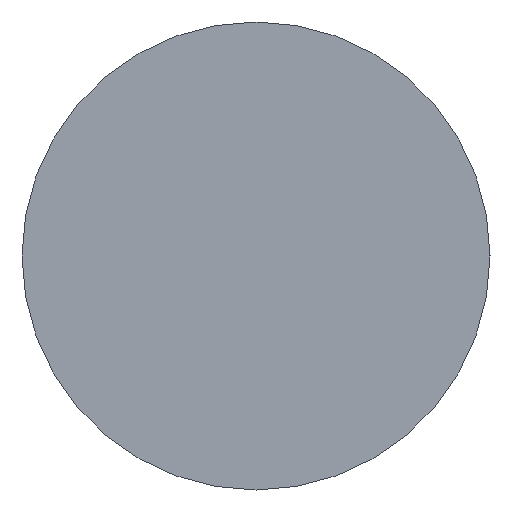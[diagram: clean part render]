
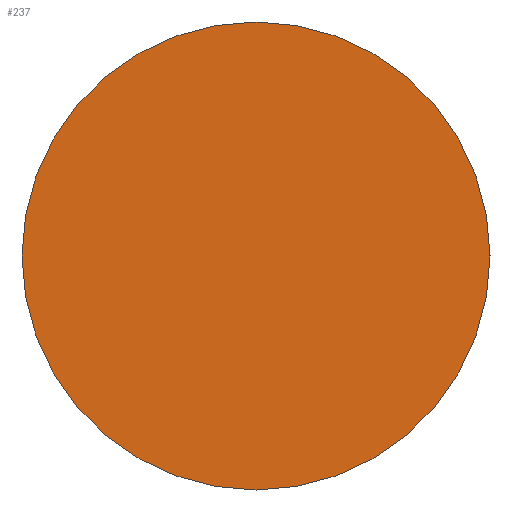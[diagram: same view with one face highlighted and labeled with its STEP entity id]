
A CAD part, left-side view. The second image highlights one B-rep face of the part: STEP entity #237.
In plain terms, the highlighted planar face has unit normal (-1, 0, 0).
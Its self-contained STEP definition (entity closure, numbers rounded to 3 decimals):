
#2 = ORIENTED_EDGE ( 'NONE', *, *, #126, .F. ) ;
#3 = DIRECTION ( 'NONE',  ( 0., 1., 0. ) ) ;
#15 = CARTESIAN_POINT ( 'NONE',  ( 0., 0., 0. ) ) ;
#27 = EDGE_CURVE ( 'NONE', #177, #88, #197, .T. ) ;
#62 = DIRECTION ( 'NONE',  ( 1., 0., 0. ) ) ;
#67 = DIRECTION ( 'NONE',  ( 1., 0., 0. ) ) ;
#74 = DIRECTION ( 'NONE',  ( 0., -1., 0. ) ) ;
#88 = VERTEX_POINT ( 'NONE', #215 ) ;
#100 = CARTESIAN_POINT ( 'NONE',  ( 0., 0., 0. ) ) ;
#116 = DIRECTION ( 'NONE',  ( 0., 1., 0. ) ) ;
#126 = EDGE_CURVE ( 'NONE', #88, #177, #188, .T. ) ;
#141 = AXIS2_PLACEMENT_3D ( 'NONE', #15, #178, #74 ) ;
#161 = FACE_OUTER_BOUND ( 'NONE', #201, .T. ) ;
#168 = PLANE ( 'NONE',  #141 ) ;
#177 = VERTEX_POINT ( 'NONE', #221 ) ;
#178 = DIRECTION ( 'NONE',  ( -1., 0., 0. ) ) ;
#188 = CIRCLE ( 'NONE', #235, 5. ) ;
#197 = CIRCLE ( 'NONE', #200, 5. ) ;
#200 = AXIS2_PLACEMENT_3D ( 'NONE', #207, #67, #3 ) ;
#201 = EDGE_LOOP ( 'NONE', ( #250, #2 ) ) ;
#207 = CARTESIAN_POINT ( 'NONE',  ( 0., 0., 0. ) ) ;
#215 = CARTESIAN_POINT ( 'NONE',  ( 0., -5., 0. ) ) ;
#221 = CARTESIAN_POINT ( 'NONE',  ( 0., 5., 0. ) ) ;
#235 = AXIS2_PLACEMENT_3D ( 'NONE', #100, #62, #116 ) ;
#237 = ADVANCED_FACE ( 'NONE', ( #161 ), #168, .T. ) ;
#250 = ORIENTED_EDGE ( 'NONE', *, *, #27, .F. ) ;
